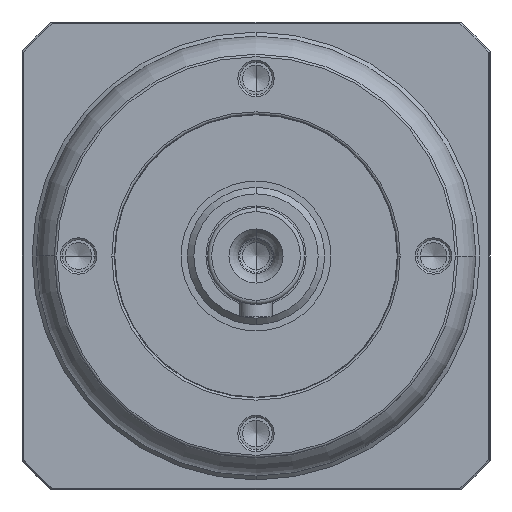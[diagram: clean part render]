
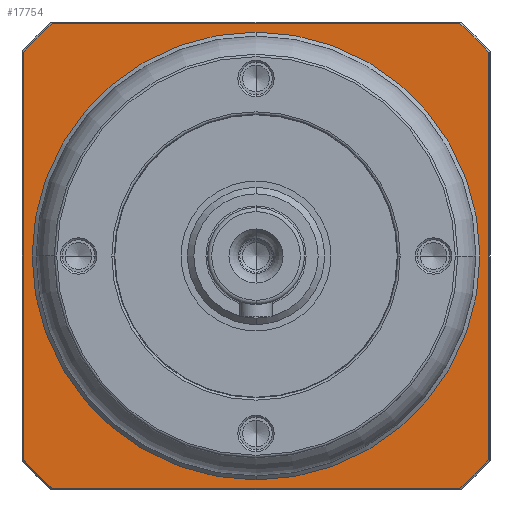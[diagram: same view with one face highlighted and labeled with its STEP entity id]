
A CAD part, left-side view. The second image highlights one B-rep face of the part: STEP entity #17754.
In plain terms, the highlighted planar face has unit normal (-1, 0, 0) as drawn and (0, 0, -1) by its records, which use the part's own axes.
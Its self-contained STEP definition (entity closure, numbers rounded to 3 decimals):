
#16519=CARTESIAN_POINT('',(0.,0.,
2.));
#16520=DIRECTION('',(0.,0.,-1.));
#16521=DIRECTION('',(0.,-1.,0.));
#16522=AXIS2_PLACEMENT_3D('',#16519,#16520,#16521);
#16524=CARTESIAN_POINT('',(0.,0.,
2.));
#16525=DIRECTION('',(0.,0.,-1.));
#16526=DIRECTION('',(0.,1.,0.));
#16527=AXIS2_PLACEMENT_3D('',#16524,#16525,#16526);
#16529=CARTESIAN_POINT('',(0.,0.,2.));
#16530=DIRECTION('',(0.,0.,1.));
#16531=DIRECTION('',(-0.752,-0.659,0.));
#16532=AXIS2_PLACEMENT_3D('',#16529,#16530,#16531);
#16534=DIRECTION('',(1.,0.,0.));
#16535=VECTOR('',#16534,50.496);
#16536=CARTESIAN_POINT('',(-25.248,-28.8,
2.));
#16537=LINE('',#16536,#16535);
#16538=CARTESIAN_POINT('',(0.,0.,2.));
#16539=DIRECTION('',(0.,0.,1.));
#16540=DIRECTION('',(0.659,-0.752,0.));
#16541=AXIS2_PLACEMENT_3D('',#16538,#16539,#16540);
#16543=DIRECTION('',(0.,1.,0.));
#16544=VECTOR('',#16543,50.496);
#16545=CARTESIAN_POINT('',(28.8,-25.248,
2.));
#16546=LINE('',#16545,#16544);
#16547=CARTESIAN_POINT('',(0.,0.,2.));
#16548=DIRECTION('',(0.,0.,1.));
#16549=DIRECTION('',(0.752,0.659,0.));
#16550=AXIS2_PLACEMENT_3D('',#16547,#16548,#16549);
#16552=DIRECTION('',(-1.,0.,0.));
#16553=VECTOR('',#16552,50.496);
#16554=CARTESIAN_POINT('',(25.248,28.8,2.));
#16555=LINE('',#16554,#16553);
#16556=CARTESIAN_POINT('',(0.,0.,2.));
#16557=DIRECTION('',(0.,0.,1.));
#16558=DIRECTION('',(-0.659,0.752,0.));
#16559=AXIS2_PLACEMENT_3D('',#16556,#16557,#16558);
#16561=DIRECTION('',(0.,-1.,0.));
#16562=VECTOR('',#16561,50.496);
#16563=CARTESIAN_POINT('',(-28.8,25.248,
2.));
#16564=LINE('',#16563,#16562);
#17401=CARTESIAN_POINT('',(0.,-27.75,2.));
#17402=CARTESIAN_POINT('',(0.,27.75,2.));
#17403=VERTEX_POINT('',#17401);
#17404=VERTEX_POINT('',#17402);
#17465=CARTESIAN_POINT('',(-28.8,-25.248,2.));
#17466=CARTESIAN_POINT('',(-25.248,-28.8,2.));
#17467=VERTEX_POINT('',#17465);
#17468=VERTEX_POINT('',#17466);
#17473=CARTESIAN_POINT('',(25.248,-28.8,
2.));
#17474=VERTEX_POINT('',#17473);
#17477=CARTESIAN_POINT('',(28.8,-25.248,2.));
#17478=VERTEX_POINT('',#17477);
#17481=CARTESIAN_POINT('',(28.8,25.248,2.));
#17482=VERTEX_POINT('',#17481);
#17485=CARTESIAN_POINT('',(25.248,28.8,2.));
#17486=VERTEX_POINT('',#17485);
#17489=CARTESIAN_POINT('',(-25.248,28.8,
2.));
#17490=VERTEX_POINT('',#17489);
#17495=CARTESIAN_POINT('',(-28.8,25.248,2.));
#17496=VERTEX_POINT('',#17495);
#17726=CARTESIAN_POINT('',(0.,0.,2.));
#17727=DIRECTION('',(0.,0.,1.));
#17728=DIRECTION('',(0.,1.,0.));
#17729=AXIS2_PLACEMENT_3D('',#17726,#17727,#17728);
#17730=PLANE('',#17729);
#17732=ORIENTED_EDGE('',*,*,#17731,.T.);
#17734=ORIENTED_EDGE('',*,*,#17733,.T.);
#17736=ORIENTED_EDGE('',*,*,#17735,.T.);
#17738=ORIENTED_EDGE('',*,*,#17737,.T.);
#17740=ORIENTED_EDGE('',*,*,#17739,.T.);
#17742=ORIENTED_EDGE('',*,*,#17741,.T.);
#17744=ORIENTED_EDGE('',*,*,#17743,.T.);
#17746=ORIENTED_EDGE('',*,*,#17745,.T.);
#17747=EDGE_LOOP('',(#17732,#17734,#17736,#17738,#17740,#17742,#17744,#17746));
#17748=FACE_OUTER_BOUND('',#17747,.F.);
#17750=ORIENTED_EDGE('',*,*,#17749,.T.);
#17751=ORIENTED_EDGE('',*,*,#17716,.T.);
#17752=EDGE_LOOP('',(#17750,#17751));
#17753=FACE_BOUND('',#17752,.F.);
#17754=ADVANCED_FACE('',(#17748,#17753),#17730,.F.);
#16523=CIRCLE('',#16522,27.75);
#16528=CIRCLE('',#16527,27.75);
#16533=CIRCLE('',#16532,38.3);
#16542=CIRCLE('',#16541,38.3);
#16551=CIRCLE('',#16550,38.3);
#16560=CIRCLE('',#16559,38.3);
#17716=EDGE_CURVE('',#17404,#17403,#16528,.T.);
#17731=EDGE_CURVE('',#17467,#17468,#16533,.T.);
#17733=EDGE_CURVE('',#17468,#17474,#16537,.T.);
#17735=EDGE_CURVE('',#17474,#17478,#16542,.T.);
#17737=EDGE_CURVE('',#17478,#17482,#16546,.T.);
#17739=EDGE_CURVE('',#17482,#17486,#16551,.T.);
#17741=EDGE_CURVE('',#17486,#17490,#16555,.T.);
#17743=EDGE_CURVE('',#17490,#17496,#16560,.T.);
#17745=EDGE_CURVE('',#17496,#17467,#16564,.T.);
#17749=EDGE_CURVE('',#17403,#17404,#16523,.T.);
